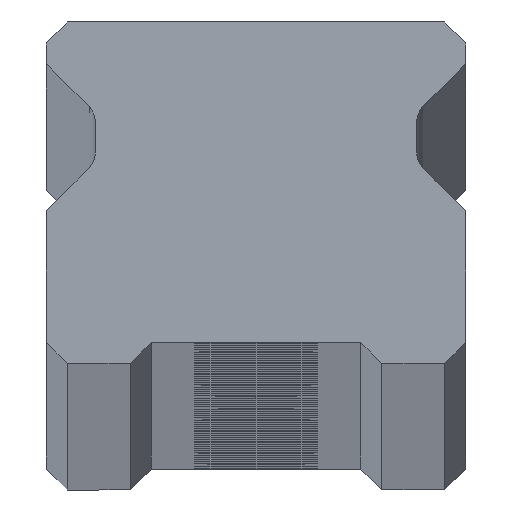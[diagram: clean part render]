
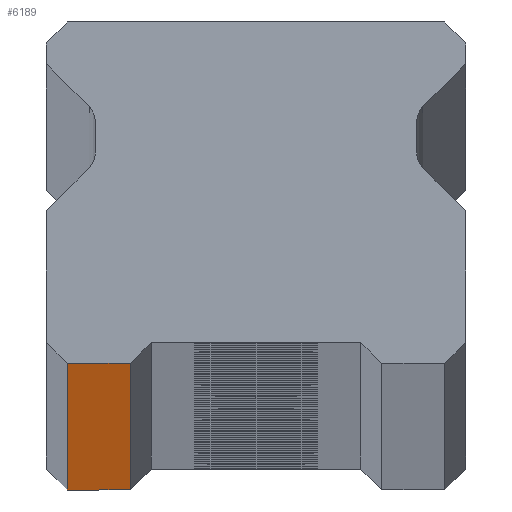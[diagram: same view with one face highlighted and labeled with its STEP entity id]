
A CAD part, top view. The second image highlights one B-rep face of the part: STEP entity #6189.
In plain terms, the highlighted planar face has unit normal (0, -1, 0).
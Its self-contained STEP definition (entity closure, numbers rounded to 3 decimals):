
#110 = VERTEX_POINT ( 'NONE', #7705 ) ;
#120 = ORIENTED_EDGE ( 'NONE', *, *, #6993, .T. ) ;
#1002 = ORIENTED_EDGE ( 'NONE', *, *, #4946, .T. ) ;
#1104 = FACE_OUTER_BOUND ( 'NONE', #5056, .T. ) ;
#1722 = CARTESIAN_POINT ( 'NONE',  ( -9., 0., 1730. ) ) ;
#1825 = CARTESIAN_POINT ( 'NONE',  ( 10., 0., 1730. ) ) ;
#2393 = DIRECTION ( 'NONE',  ( 0., 1., 0. ) ) ;
#2462 = PLANE ( 'NONE',  #2537 ) ;
#2537 = AXIS2_PLACEMENT_3D ( 'NONE', #6893, #2393, #7734 ) ;
#2554 = ORIENTED_EDGE ( 'NONE', *, *, #6294, .F. ) ;
#2656 = VERTEX_POINT ( 'NONE', #3303 ) ;
#2704 = CARTESIAN_POINT ( 'NONE',  ( -9., 0., -1730. ) ) ;
#2709 = VECTOR ( 'NONE', #9530, 1000. ) ;
#3303 = CARTESIAN_POINT ( 'NONE',  ( -9., 0., 1730. ) ) ;
#3360 = LINE ( 'NONE', #1722, #7354 ) ;
#3843 = CARTESIAN_POINT ( 'NONE',  ( 10., 0., -1730. ) ) ;
#4004 = EDGE_CURVE ( 'NONE', #110, #9072, #8857, .T. ) ;
#4658 = LINE ( 'NONE', #1825, #6199 ) ;
#4836 = DIRECTION ( 'NONE',  ( 1., 0., 0. ) ) ;
#4946 = EDGE_CURVE ( 'NONE', #9441, #110, #9087, .T. ) ;
#5056 = EDGE_LOOP ( 'NONE', ( #1002, #5599, #2554, #120 ) ) ;
#5599 = ORIENTED_EDGE ( 'NONE', *, *, #4004, .T. ) ;
#6189 = ADVANCED_FACE ( 'NONE', ( #1104 ), #2462, .F. ) ;
#6199 = VECTOR ( 'NONE', #4836, 1000. ) ;
#6294 = EDGE_CURVE ( 'NONE', #2656, #9072, #4658, .T. ) ;
#6694 = VECTOR ( 'NONE', #9128, 1000. ) ;
#6893 = CARTESIAN_POINT ( 'NONE',  ( 10., 0., 1730. ) ) ;
#6988 = DIRECTION ( 'NONE',  ( 0., 0., -1. ) ) ;
#6993 = EDGE_CURVE ( 'NONE', #2656, #9441, #3360, .T. ) ;
#7272 = CARTESIAN_POINT ( 'NONE',  ( -6., 0., 1730. ) ) ;
#7354 = VECTOR ( 'NONE', #6988, 1000. ) ;
#7705 = CARTESIAN_POINT ( 'NONE',  ( -6., 0., -1730. ) ) ;
#7734 = DIRECTION ( 'NONE',  ( -1., 0., 0. ) ) ;
#8857 = LINE ( 'NONE', #9393, #2709 ) ;
#9072 = VERTEX_POINT ( 'NONE', #7272 ) ;
#9087 = LINE ( 'NONE', #3843, #6694 ) ;
#9128 = DIRECTION ( 'NONE',  ( 1., 0., 0. ) ) ;
#9393 = CARTESIAN_POINT ( 'NONE',  ( -6., 0., -1730. ) ) ;
#9441 = VERTEX_POINT ( 'NONE', #2704 ) ;
#9530 = DIRECTION ( 'NONE',  ( 0., 0., 1. ) ) ;
